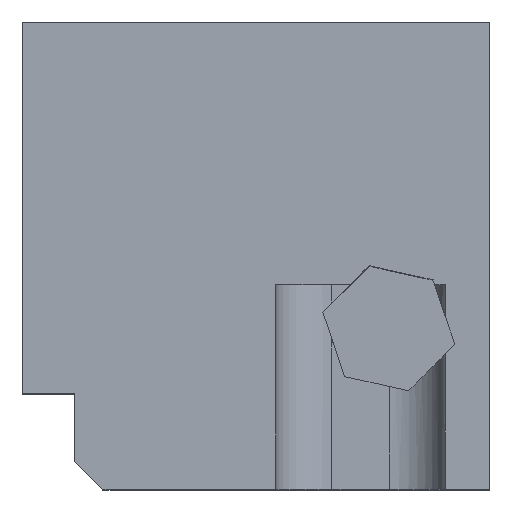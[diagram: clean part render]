
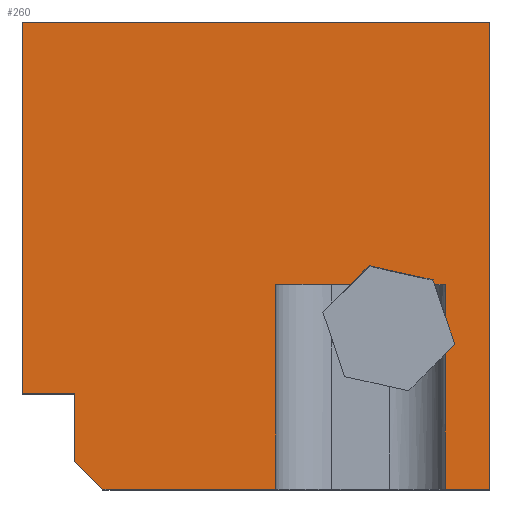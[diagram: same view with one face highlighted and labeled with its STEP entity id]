
A CAD part, top view. The second image highlights one B-rep face of the part: STEP entity #260.
In plain terms, the highlighted planar face has unit normal (0, 0, 1).
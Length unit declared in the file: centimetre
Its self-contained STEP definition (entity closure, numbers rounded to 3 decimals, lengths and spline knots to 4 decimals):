
#13 = DIRECTION ( 'NONE',  ( 1., 0., 0. ) ) ;
#33 = VERTEX_POINT ( 'NONE', #45 ) ;
#45 = CARTESIAN_POINT ( 'NONE',  ( 112.3672, 204.789, 1000. ) ) ;
#47 = CARTESIAN_POINT ( 'NONE',  ( 0., 1000., 1000. ) ) ;
#55 = CARTESIAN_POINT ( 'NONE',  ( 925.5981, 309.949, 1000. ) ) ;
#57 = ORIENTED_EDGE ( 'NONE', *, *, #308, .T. ) ;
#67 = EDGE_CURVE ( 'NONE', #33, #821, #478, .T. ) ;
#68 = DIRECTION ( 'NONE',  ( 0., 1., 0. ) ) ;
#76 = VECTOR ( 'NONE', #586, 100. ) ;
#82 = VERTEX_POINT ( 'NONE', #675 ) ;
#99 = DIRECTION ( 'NONE',  ( -0.707, -0.707, 0. ) ) ;
#100 = ORIENTED_EDGE ( 'NONE', *, *, #232, .F. ) ;
#109 = VECTOR ( 'NONE', #68, 100. ) ;
#116 = LINE ( 'NONE', #47, #621 ) ;
#124 = CARTESIAN_POINT ( 'NONE',  ( 905.5411, 438.1489, 1000. ) ) ;
#129 = CARTESIAN_POINT ( 'NONE',  ( 905.5411, 438.1489, 1000. ) ) ;
#130 = ORIENTED_EDGE ( 'NONE', *, *, #280, .F. ) ;
#131 = VECTOR ( 'NONE', #412, 100. ) ;
#152 = EDGE_CURVE ( 'NONE', #335, #688, #349, .T. ) ;
#154 = VECTOR ( 'NONE', #585, 100. ) ;
#178 = VERTEX_POINT ( 'NONE', #811 ) ;
#179 = VERTEX_POINT ( 'NONE', #743 ) ;
#180 = CARTESIAN_POINT ( 'NONE',  ( 0., 438.1489, 1000. ) ) ;
#195 = LINE ( 'NONE', #342, #425 ) ;
#209 = EDGE_CURVE ( 'NONE', #178, #33, #480, .T. ) ;
#221 = AXIS2_PLACEMENT_3D ( 'NONE', #877, #549, #818 ) ;
#232 = EDGE_CURVE ( 'NONE', #525, #339, #747, .T. ) ;
#236 = VECTOR ( 'NONE', #859, 100. ) ;
#239 = VECTOR ( 'NONE', #439, 100. ) ;
#244 = VERTEX_POINT ( 'NONE', #402 ) ;
#251 = ORIENTED_EDGE ( 'NONE', *, *, #589, .T. ) ;
#260 = ADVANCED_FACE ( 'NONE', ( #410 ), #537, .T. ) ;
#261 = DIRECTION ( 'NONE',  ( -0.976, 0.216, 0. ) ) ;
#280 = EDGE_CURVE ( 'NONE', #503, #753, #588, .T. ) ;
#282 = EDGE_CURVE ( 'NONE', #688, #575, #661, .T. ) ;
#296 = VERTEX_POINT ( 'NONE', #574 ) ;
#306 = VECTOR ( 'NONE', #408, 100. ) ;
#307 = CARTESIAN_POINT ( 'NONE',  ( 882.3797, 438.1489, 1000. ) ) ;
#308 = EDGE_CURVE ( 'NONE', #244, #467, #595, .T. ) ;
#317 = ORIENTED_EDGE ( 'NONE', *, *, #441, .T. ) ;
#332 = VERTEX_POINT ( 'NONE', #583 ) ;
#335 = VERTEX_POINT ( 'NONE', #55 ) ;
#339 = VERTEX_POINT ( 'NONE', #715 ) ;
#340 = DIRECTION ( 'NONE',  ( -0.319, 0.948, 0. ) ) ;
#342 = CARTESIAN_POINT ( 'NONE',  ( 0., 438.1489, 1000. ) ) ;
#349 = LINE ( 'NONE', #469, #576 ) ;
#354 = VECTOR ( 'NONE', #508, 100. ) ;
#370 = DIRECTION ( 'NONE',  ( 0., 1., 0. ) ) ;
#373 = CARTESIAN_POINT ( 'NONE',  ( 742.2033, 478.2846, 1000. ) ) ;
#378 = VECTOR ( 'NONE', #600, 100. ) ;
#386 = ORIENTED_EDGE ( 'NONE', *, *, #282, .F. ) ;
#393 = DIRECTION ( 'NONE',  ( 1., 0., 0. ) ) ;
#397 = CARTESIAN_POINT ( 'NONE',  ( 905.5411, 369.4446, 1000. ) ) ;
#401 = VECTOR ( 'NONE', #672, 100. ) ;
#402 = CARTESIAN_POINT ( 'NONE',  ( 542.3254, 438.1489, 1000. ) ) ;
#406 = LINE ( 'NONE', #863, #652 ) ;
#408 = DIRECTION ( 'NONE',  ( -1., 0., 0. ) ) ;
#410 = FACE_OUTER_BOUND ( 'NONE', #660, .T. ) ;
#412 = DIRECTION ( 'NONE',  ( 0., 1., 0. ) ) ;
#415 = ORIENTED_EDGE ( 'NONE', *, *, #770, .T. ) ;
#420 = EDGE_CURVE ( 'NONE', #178, #82, #444, .T. ) ;
#422 = LINE ( 'NONE', #856, #378 ) ;
#425 = VECTOR ( 'NONE', #529, 100. ) ;
#427 = CARTESIAN_POINT ( 'NONE',  ( 905.5411, 438.1489, 1000. ) ) ;
#433 = ORIENTED_EDGE ( 'NONE', *, *, #718, .T. ) ;
#437 = VECTOR ( 'NONE', #13, 100. ) ;
#439 = DIRECTION ( 'NONE',  ( 0.707, -0.707, 0. ) ) ;
#441 = EDGE_CURVE ( 'NONE', #332, #673, #116, .T. ) ;
#443 = ORIENTED_EDGE ( 'NONE', *, *, #209, .F. ) ;
#444 = LINE ( 'NONE', #521, #239 ) ;
#457 = VECTOR ( 'NONE', #393, 100. ) ;
#467 = VERTEX_POINT ( 'NONE', #572 ) ;
#469 = CARTESIAN_POINT ( 'NONE',  ( 925.5981, 309.949, 1000. ) ) ;
#477 = EDGE_CURVE ( 'NONE', #244, #179, #844, .T. ) ;
#478 = LINE ( 'NONE', #738, #306 ) ;
#480 = LINE ( 'NONE', #737, #109 ) ;
#497 = ORIENTED_EDGE ( 'NONE', *, *, #518, .T. ) ;
#502 = EDGE_CURVE ( 'NONE', #296, #467, #641, .T. ) ;
#503 = VERTEX_POINT ( 'NONE', #307 ) ;
#508 = DIRECTION ( 'NONE',  ( 0., -1., 0. ) ) ;
#516 = VERTEX_POINT ( 'NONE', #775 ) ;
#518 = EDGE_CURVE ( 'NONE', #525, #516, #792, .T. ) ;
#521 = CARTESIAN_POINT ( 'NONE',  ( 86.2431, 86.2431, 1000. ) ) ;
#525 = VERTEX_POINT ( 'NONE', #710 ) ;
#529 = DIRECTION ( 'NONE',  ( 1., 0., 0. ) ) ;
#537 = PLANE ( 'NONE',  #221 ) ;
#538 = ORIENTED_EDGE ( 'NONE', *, *, #420, .T. ) ;
#544 = LINE ( 'NONE', #735, #154 ) ;
#549 = DIRECTION ( 'NONE',  ( 0., 0., 1. ) ) ;
#561 = VECTOR ( 'NONE', #370, 100. ) ;
#572 = CARTESIAN_POINT ( 'NONE',  ( 702.0677, 438.1489, 1000. ) ) ;
#574 = CARTESIAN_POINT ( 'NONE',  ( 742.2033, 478.2846, 1000. ) ) ;
#575 = VERTEX_POINT ( 'NONE', #427 ) ;
#576 = VECTOR ( 'NONE', #340, 100. ) ;
#583 = CARTESIAN_POINT ( 'NONE',  ( 1000., 1000., 1000. ) ) ;
#585 = DIRECTION ( 'NONE',  ( 0., 1., 0. ) ) ;
#586 = DIRECTION ( 'NONE',  ( 1., 0., 0. ) ) ;
#588 = LINE ( 'NONE', #781, #236 ) ;
#589 = EDGE_CURVE ( 'NONE', #82, #179, #695, .T. ) ;
#592 = ORIENTED_EDGE ( 'NONE', *, *, #152, .F. ) ;
#595 = LINE ( 'NONE', #180, #457 ) ;
#600 = DIRECTION ( 'NONE',  ( 0.707, 0.707, 0. ) ) ;
#605 = CARTESIAN_POINT ( 'NONE',  ( 879.0665, 447.9769, 1000. ) ) ;
#621 = VECTOR ( 'NONE', #779, 100. ) ;
#636 = CARTESIAN_POINT ( 'NONE',  ( 0., 1000., 1000. ) ) ;
#641 = LINE ( 'NONE', #373, #671 ) ;
#648 = ORIENTED_EDGE ( 'NONE', *, *, #732, .F. ) ;
#652 = VECTOR ( 'NONE', #261, 100. ) ;
#658 = CARTESIAN_POINT ( 'NONE',  ( 0., 1000., 1000. ) ) ;
#659 = CARTESIAN_POINT ( 'NONE',  ( 542.3254, 438.1489, 1000. ) ) ;
#660 = EDGE_LOOP ( 'NONE', ( #592, #687, #100, #497, #708, #317, #433, #876, #443, #538, #251, #783, #57, #702, #648, #130, #415, #386 ) ) ;
#661 = LINE ( 'NONE', #124, #561 ) ;
#671 = VECTOR ( 'NONE', #99, 100. ) ;
#672 = DIRECTION ( 'NONE',  ( 0., -1., 0. ) ) ;
#673 = VERTEX_POINT ( 'NONE', #636 ) ;
#675 = CARTESIAN_POINT ( 'NONE',  ( 172.4862, 0., 1000. ) ) ;
#684 = EDGE_CURVE ( 'NONE', #339, #335, #422, .T. ) ;
#687 = ORIENTED_EDGE ( 'NONE', *, *, #684, .F. ) ;
#688 = VERTEX_POINT ( 'NONE', #397 ) ;
#695 = LINE ( 'NONE', #761, #437 ) ;
#702 = ORIENTED_EDGE ( 'NONE', *, *, #502, .F. ) ;
#706 = EDGE_CURVE ( 'NONE', #516, #332, #544, .T. ) ;
#708 = ORIENTED_EDGE ( 'NONE', *, *, #706, .T. ) ;
#710 = CARTESIAN_POINT ( 'NONE',  ( 905.5411, 0., 1000. ) ) ;
#715 = CARTESIAN_POINT ( 'NONE',  ( 905.5411, 289.892, 1000. ) ) ;
#718 = EDGE_CURVE ( 'NONE', #673, #821, #741, .T. ) ;
#732 = EDGE_CURVE ( 'NONE', #753, #296, #406, .T. ) ;
#735 = CARTESIAN_POINT ( 'NONE',  ( 1000., 1000., 1000. ) ) ;
#737 = CARTESIAN_POINT ( 'NONE',  ( 112.3672, 0., 1000. ) ) ;
#738 = CARTESIAN_POINT ( 'NONE',  ( 0., 204.789, 1000. ) ) ;
#741 = LINE ( 'NONE', #658, #401 ) ;
#743 = CARTESIAN_POINT ( 'NONE',  ( 542.3254, 0., 1000. ) ) ;
#747 = LINE ( 'NONE', #129, #131 ) ;
#753 = VERTEX_POINT ( 'NONE', #605 ) ;
#761 = CARTESIAN_POINT ( 'NONE',  ( 0., 0., 1000. ) ) ;
#770 = EDGE_CURVE ( 'NONE', #503, #575, #195, .T. ) ;
#775 = CARTESIAN_POINT ( 'NONE',  ( 1000., 0., 1000. ) ) ;
#779 = DIRECTION ( 'NONE',  ( -1., 0., 0. ) ) ;
#781 = CARTESIAN_POINT ( 'NONE',  ( 925.5981, 309.949, 1000. ) ) ;
#783 = ORIENTED_EDGE ( 'NONE', *, *, #477, .F. ) ;
#791 = CARTESIAN_POINT ( 'NONE',  ( 0., 204.789, 1000. ) ) ;
#792 = LINE ( 'NONE', #851, #76 ) ;
#811 = CARTESIAN_POINT ( 'NONE',  ( 112.3672, 60.1189, 1000. ) ) ;
#818 = DIRECTION ( 'NONE',  ( 1., 0., 0. ) ) ;
#821 = VERTEX_POINT ( 'NONE', #791 ) ;
#844 = LINE ( 'NONE', #659, #354 ) ;
#851 = CARTESIAN_POINT ( 'NONE',  ( 0., 0., 1000. ) ) ;
#856 = CARTESIAN_POINT ( 'NONE',  ( 826.5721, 210.923, 1000. ) ) ;
#859 = DIRECTION ( 'NONE',  ( -0.319, 0.948, 0. ) ) ;
#863 = CARTESIAN_POINT ( 'NONE',  ( 879.0665, 447.9769, 1000. ) ) ;
#876 = ORIENTED_EDGE ( 'NONE', *, *, #67, .F. ) ;
#877 = CARTESIAN_POINT ( 'NONE',  ( 0., 0., 1000. ) ) ;
